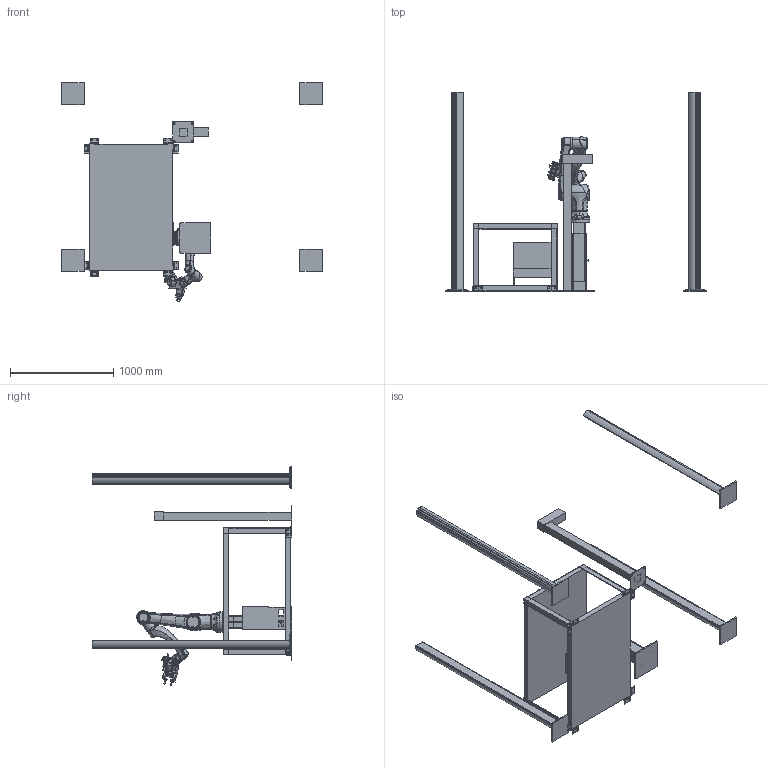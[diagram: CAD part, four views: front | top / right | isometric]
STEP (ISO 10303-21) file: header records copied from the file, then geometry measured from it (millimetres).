
FILE_DESCRIPTION (( 'STEP AP203' ), '1' );
FILE_NAME ('HC10_4_2025.STEP', '2025-04-25T01:08:55', ( '' ), ( '' ), 'SwSTEP 2.0', 'SolidWorks 2023', '' );
FILE_SCHEMA (( 'CONFIG_CONTROL_DESIGN' ));
Length unit declared in the file: inch
Products named in the file (23): HC10-Stand 24in; HC10-Finger Plates 2; HC10-Control Box; HC10-Joint 6; HC10-Light Curtain Kit; HC10-Finger set 1; HC10-Joint 4; HC10-Joint 1; HC10-Joint 2; HC10-Joint 5; HC10-Single Gripper Assembly; HC10-Single Gripper Plates; HC10-Single Gripper Fingers; HC10-End Effector; HC10_4_2025; HC10-Stand Pin; HC10-Finger set 2; HC10-Joint 3; HC10-Stand Extension 36; HC10-Dual Gripper Assembly; HC10-Part Flipping Station; HC10-Parts Table; HC10-Finger Plates 1
Assembly tree (22 placements, depth 2):
  HC10_4_2025
    HC10-Stand Pin
    HC10-Control Box
    HC10-Joint 1
    HC10-Joint 2
    HC10-Joint 3
    HC10-Joint 4
    HC10-Joint 5
    HC10-Joint 6
    HC10-End Effector
    HC10-Dual Gripper Assembly
    HC10-Finger Plates 1
    HC10-Finger set 1
    HC10-Finger Plates 2
    HC10-Finger set 2
    HC10-Stand 24in
    HC10-Stand Extension 36
    HC10-Parts Table
    HC10-Part Flipping Station
    HC10-Light Curtain Kit
    HC10-Single Gripper Assembly
    HC10-Single Gripper Plates
    HC10-Single Gripper Fingers
Bounding box: 2520.95 x 1930.7 x 2119.11 mm (x, y, z)
Volume: 220289952.8 mm3; surface area: 13565482.2 mm2
Topology: 41 solids, 51 shells, 3132 faces, 8201 edges, 5267 vertices
Faces by surface type: plane 1221, cylinder 1186, bspline 514, cone 129, torus 82
Entity records: 220158 total; most frequent: CARTESIAN_POINT 141754, ORIENTED_EDGE 16364, DIRECTION 15050, EDGE_CURVE 8182, AXIS2_PLACEMENT_3D 5520, VERTEX_POINT 5267, VECTOR 4010, LINE 4010
